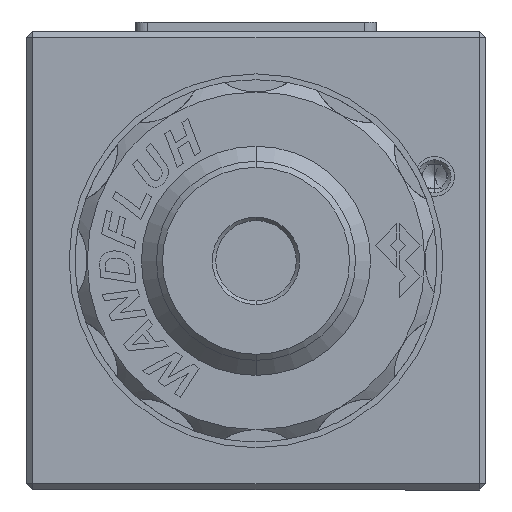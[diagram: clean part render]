
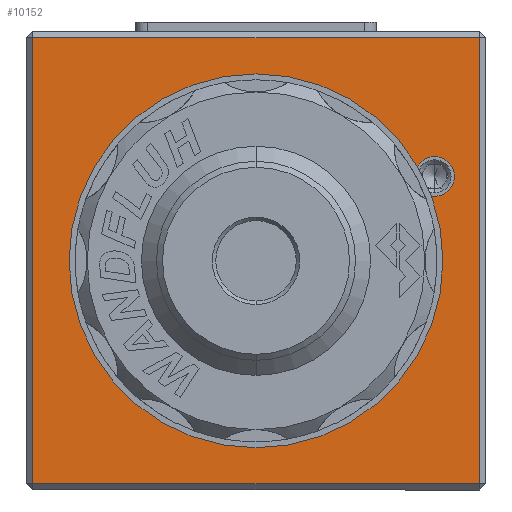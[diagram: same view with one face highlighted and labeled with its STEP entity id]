
A CAD part, left-side view. The second image highlights one B-rep face of the part: STEP entity #10152.
In plain terms, the highlighted planar face has unit normal (-1, 0, 0).
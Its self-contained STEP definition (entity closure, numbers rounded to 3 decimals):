
#683 = CARTESIAN_POINT ( 'NONE',  ( 0., -14.8, 5.35 ) ) ;
#716 = ORIENTED_EDGE ( 'NONE', *, *, #18458, .T. ) ;
#931 = AXIS2_PLACEMENT_3D ( 'NONE', #6174, #13764, #20374 ) ;
#2252 = DIRECTION ( 'NONE',  ( 0., 0., -1. ) ) ;
#2411 = VECTOR ( 'NONE', #2252, 1000. ) ;
#2547 = ORIENTED_EDGE ( 'NONE', *, *, #2630, .F. ) ;
#2630 = EDGE_CURVE ( 'NONE', #10576, #14705, #9159, .T. ) ;
#3257 = VERTEX_POINT ( 'NONE', #6991 ) ;
#3799 = VECTOR ( 'NONE', #19655, 1000. ) ;
#4750 = DIRECTION ( 'NONE',  ( 0., 0., 1. ) ) ;
#6174 = CARTESIAN_POINT ( 'NONE',  ( 0., 0., 0. ) ) ;
#6181 = VERTEX_POINT ( 'NONE', #6398 ) ;
#6332 = ORIENTED_EDGE ( 'NONE', *, *, #9237, .T. ) ;
#6398 = CARTESIAN_POINT ( 'NONE',  ( 0., -18.5, 18.5 ) ) ;
#6677 = LINE ( 'NONE', #13056, #3799 ) ;
#6747 = EDGE_CURVE ( 'NONE', #17391, #14590, #15084, .T. ) ;
#6991 = CARTESIAN_POINT ( 'NONE',  ( 0., -18.5, -18.5 ) ) ;
#7009 = CARTESIAN_POINT ( 'NONE',  ( 0., -14.8, 8.65 ) ) ;
#7209 = AXIS2_PLACEMENT_3D ( 'NONE', #10833, #8187, #14981 ) ;
#7261 = DIRECTION ( 'NONE',  ( -1., 0., 0. ) ) ;
#7495 = AXIS2_PLACEMENT_3D ( 'NONE', #13739, #7261, #13843 ) ;
#7705 = CIRCLE ( 'NONE', #19797, 1.65 ) ;
#8184 = CIRCLE ( 'NONE', #7495, 9.5 ) ;
#8187 = DIRECTION ( 'NONE',  ( 1., 0., 0. ) ) ;
#8597 = CARTESIAN_POINT ( 'NONE',  ( 0., -19., -18.5 ) ) ;
#8981 = EDGE_LOOP ( 'NONE', ( #10832, #10267 ) ) ;
#9059 = EDGE_CURVE ( 'NONE', #14590, #17391, #8184, .T. ) ;
#9159 = CIRCLE ( 'NONE', #21232, 1.65 ) ;
#9185 = EDGE_LOOP ( 'NONE', ( #14034, #10269, #716, #6332 ) ) ;
#9237 = EDGE_CURVE ( 'NONE', #6181, #18051, #21077, .T. ) ;
#9468 = VERTEX_POINT ( 'NONE', #17157 ) ;
#9479 = DIRECTION ( 'NONE',  ( 0., 0., 1. ) ) ;
#9499 = FACE_BOUND ( 'NONE', #18268, .T. ) ;
#10152 = ADVANCED_FACE ( 'NONE', ( #18910, #19332, #9499 ), #14234, .F. ) ;
#10267 = ORIENTED_EDGE ( 'NONE', *, *, #6747, .F. ) ;
#10269 = ORIENTED_EDGE ( 'NONE', *, *, #17095, .T. ) ;
#10576 = VERTEX_POINT ( 'NONE', #683 ) ;
#10811 = CARTESIAN_POINT ( 'NONE',  ( 0., -14.8, 7. ) ) ;
#10832 = ORIENTED_EDGE ( 'NONE', *, *, #9059, .F. ) ;
#10833 = CARTESIAN_POINT ( 'NONE',  ( 0., -19., 19. ) ) ;
#10900 = VECTOR ( 'NONE', #16786, 1000. ) ;
#11992 = VECTOR ( 'NONE', #19163, 1000. ) ;
#12564 = CARTESIAN_POINT ( 'NONE',  ( 0., 18.5, 18.5 ) ) ;
#13056 = CARTESIAN_POINT ( 'NONE',  ( 0., -18.5, 19. ) ) ;
#13279 = EDGE_CURVE ( 'NONE', #14705, #10576, #7705, .T. ) ;
#13739 = CARTESIAN_POINT ( 'NONE',  ( 0., 0., 0. ) ) ;
#13764 = DIRECTION ( 'NONE',  ( -1., 0., 0. ) ) ;
#13843 = DIRECTION ( 'NONE',  ( 0., 0., -1. ) ) ;
#14034 = ORIENTED_EDGE ( 'NONE', *, *, #14044, .T. ) ;
#14044 = EDGE_CURVE ( 'NONE', #18051, #9468, #17132, .T. ) ;
#14234 = PLANE ( 'NONE',  #7209 ) ;
#14345 = CARTESIAN_POINT ( 'NONE',  ( 0., -14.8, 7. ) ) ;
#14590 = VERTEX_POINT ( 'NONE', #21045 ) ;
#14705 = VERTEX_POINT ( 'NONE', #7009 ) ;
#14981 = DIRECTION ( 'NONE',  ( 0., 0., -1. ) ) ;
#15084 = CIRCLE ( 'NONE', #931, 9.5 ) ;
#15096 = CARTESIAN_POINT ( 'NONE',  ( 0., 18.5, 19. ) ) ;
#16514 = CARTESIAN_POINT ( 'NONE',  ( 0., 0., -9.5 ) ) ;
#16786 = DIRECTION ( 'NONE',  ( 0., -1., 0. ) ) ;
#17095 = EDGE_CURVE ( 'NONE', #9468, #3257, #20040, .T. ) ;
#17132 = LINE ( 'NONE', #15096, #2411 ) ;
#17157 = CARTESIAN_POINT ( 'NONE',  ( 0., 18.5, -18.5 ) ) ;
#17391 = VERTEX_POINT ( 'NONE', #16514 ) ;
#17500 = DIRECTION ( 'NONE',  ( -1., 0., 0. ) ) ;
#17700 = DIRECTION ( 'NONE',  ( -1., 0., 0. ) ) ;
#18051 = VERTEX_POINT ( 'NONE', #12564 ) ;
#18268 = EDGE_LOOP ( 'NONE', ( #20905, #2547 ) ) ;
#18458 = EDGE_CURVE ( 'NONE', #3257, #6181, #6677, .T. ) ;
#18910 = FACE_BOUND ( 'NONE', #8981, .T. ) ;
#19163 = DIRECTION ( 'NONE',  ( 0., 1., 0. ) ) ;
#19332 = FACE_OUTER_BOUND ( 'NONE', #9185, .T. ) ;
#19480 = CARTESIAN_POINT ( 'NONE',  ( 0., -19., 18.5 ) ) ;
#19655 = DIRECTION ( 'NONE',  ( 0., 0., 1. ) ) ;
#19797 = AXIS2_PLACEMENT_3D ( 'NONE', #10811, #17700, #9479 ) ;
#20040 = LINE ( 'NONE', #8597, #10900 ) ;
#20374 = DIRECTION ( 'NONE',  ( 0., 0., -1. ) ) ;
#20905 = ORIENTED_EDGE ( 'NONE', *, *, #13279, .F. ) ;
#21045 = CARTESIAN_POINT ( 'NONE',  ( 0., 0., 9.5 ) ) ;
#21077 = LINE ( 'NONE', #19480, #11992 ) ;
#21232 = AXIS2_PLACEMENT_3D ( 'NONE', #14345, #17500, #4750 ) ;
